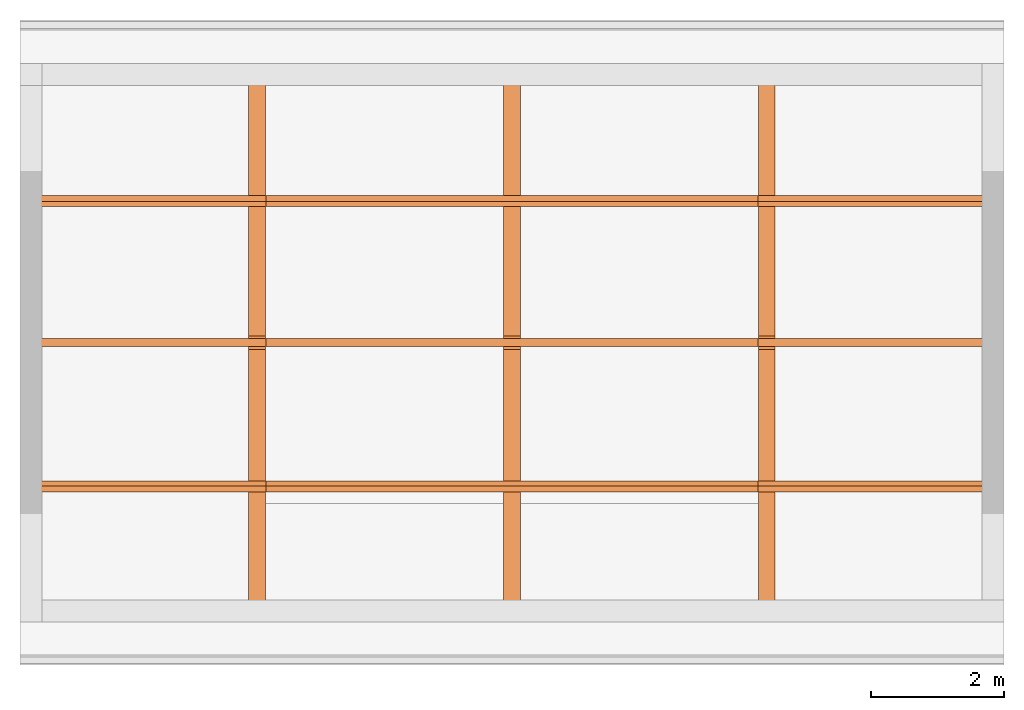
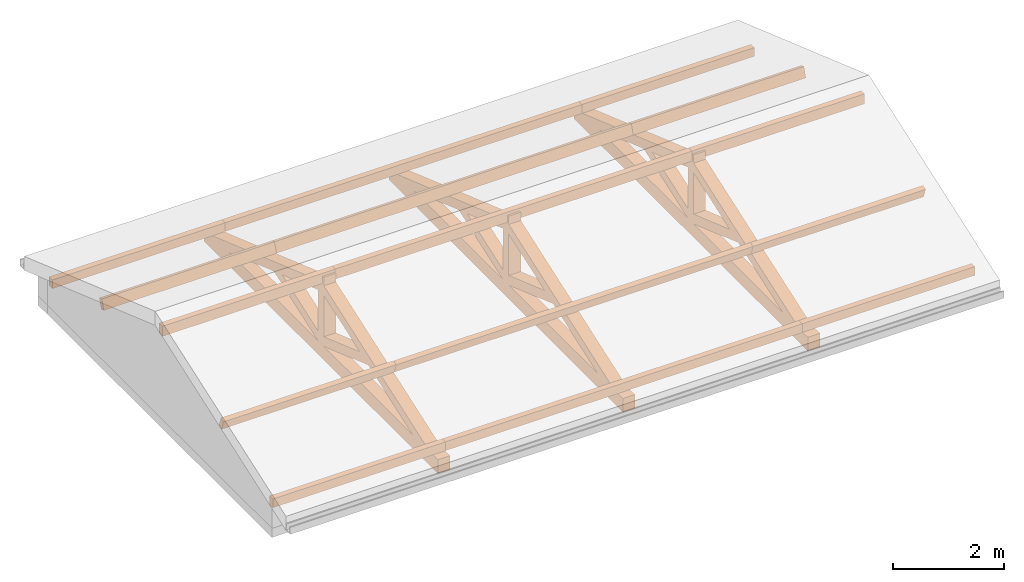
# One storey, part 3 of 3: 3 proxies.
"""IFC2X3 building model written with IfcOpenShell, lengths in metres."""

from ifc_helpers import new_model, entity, si_unit, converted_unit, derived_unit, direction, frame, frame_2d, origin, origin_2d_with_axis, place, context, subcontext, project, spatial, polyline, rectangle, outline, extrude, source, transform, mapped, material, type_object, type_shapes, element, save


model = new_model("IFC2X3")

# Units and contexts
model_context = context("Model", 3, precision=1e-05, world=origin(), true_north=direction((6.12303176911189e-17, 1.0)))
body_context = subcontext(model_context, "Body", "Model", "MODEL_VIEW")
ifc_project = project(units=[si_unit("LENGTHUNIT", "METRE"), si_unit("AREAUNIT", "SQUARE_METRE"), si_unit("VOLUMEUNIT", "CUBIC_METRE"), converted_unit("PLANEANGLEUNIT", "DEGREE", entity("IfcRatioMeasure", 0.0174532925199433), si_unit("PLANEANGLEUNIT", "RADIAN"), dimensions=[0, 0, 0, 0, 0, 0, 0]), si_unit("MASSUNIT", "GRAM", prefix="KILO"), derived_unit("MASSDENSITYUNIT", [(si_unit("MASSUNIT", "GRAM", prefix="KILO"), 1), (si_unit("LENGTHUNIT", "METRE"), -3)]), si_unit("TIMEUNIT", "SECOND"), si_unit("FREQUENCYUNIT", "HERTZ"), si_unit("THERMODYNAMICTEMPERATUREUNIT", "DEGREE_CELSIUS"), derived_unit("THERMALTRANSMITTANCEUNIT", [(si_unit("MASSUNIT", "GRAM", prefix="KILO"), 1), (si_unit("THERMODYNAMICTEMPERATUREUNIT", "KELVIN"), -1), (si_unit("TIMEUNIT", "SECOND"), -3)]), derived_unit("VOLUMETRICFLOWRATEUNIT", [(si_unit("LENGTHUNIT", "METRE"), 3), (si_unit("TIMEUNIT", "SECOND"), -1)]), si_unit("ELECTRICCURRENTUNIT", "AMPERE"), si_unit("ELECTRICVOLTAGEUNIT", "VOLT"), si_unit("POWERUNIT", "WATT"), si_unit("FORCEUNIT", "NEWTON", prefix="KILO"), si_unit("ILLUMINANCEUNIT", "LUX"), si_unit("LUMINOUSFLUXUNIT", "LUMEN"), si_unit("LUMINOUSINTENSITYUNIT", "CANDELA"), derived_unit("USERDEFINED", [(si_unit("MASSUNIT", "GRAM", prefix="KILO"), -1), (si_unit("LENGTHUNIT", "METRE"), -2), (si_unit("TIMEUNIT", "SECOND"), 3), (si_unit("LUMINOUSFLUXUNIT", "LUMEN"), 1)]), derived_unit("LINEARVELOCITYUNIT", [(si_unit("LENGTHUNIT", "METRE"), 1), (si_unit("TIMEUNIT", "SECOND"), -1)]), si_unit("PRESSUREUNIT", "PASCAL"), derived_unit("USERDEFINED", [(si_unit("LENGTHUNIT", "METRE"), -2), (si_unit("MASSUNIT", "GRAM", prefix="KILO"), 1), (si_unit("TIMEUNIT", "SECOND"), -2)])], contexts=[model_context])

# Site, building, storey
site_placement = place(None, origin())
site = spatial("IfcSite", under=ifc_project, at=site_placement, Name="Surface", CompositionType="ELEMENT")
building_placement = place(site_placement, origin())
building = spatial("IfcBuilding", under=site, at=building_placement, CompositionType="ELEMENT")
storey_placement = place(building_placement, frame((0.0, 0.0, 5.8)))
storey = spatial("IfcBuildingStorey", under=building, at=storey_placement, Name="1er Chainage", CompositionType="ELEMENT", Elevation=5.8)

# Proxies
ifc_material = material(Name="bois de charpente")
building_element_proxy_type_1 = type_object("IfcBuildingElementProxyType", Name="FERME", PredefinedType="NOTDEFINED", material=ifc_material)
shared_shape_1 = source(origin(), body_context, "Body", "SweptSolid", [
    extrude(rectangle(XDim=0.22, YDim=0.1, at=frame_2d((6.24500451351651e-17, -2.42861286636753e-17), x_axis=(1.0, 0.0))), frame((-0.717544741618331, -0.0955800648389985, 0.735181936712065), z_axis=(0.0, 1.0, 0.0), x_axis=(0.330349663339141, 0.0, 0.94385862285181)), (0.0, 0.0, 1.0), 3.58),
    extrude(rectangle(XDim=0.22, YDim=0.100000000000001, at=frame_2d((1.73472347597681e-16, -5.13478148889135e-16), x_axis=(1.0, 0.0))), frame((-5.01673947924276, -0.0955800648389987, 0.7231824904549), z_axis=(0.0, 1.0, 0.0), x_axis=(-0.330349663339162, 0.0, 0.943858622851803)), (0.0, 0.0, 1.0), 3.58),
    extrude(rectangle(XDim=3.58, YDim=0.12, at=frame_2d((-2.22044604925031e-16, 5.41233724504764e-16), x_axis=(1.0, 0.0))), frame((-6.80999999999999, 1.694419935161, 0.0), z_axis=(0.0, 0.0, 1.0), x_axis=(0.0, 1.0, 0.0)), (0.0, 0.0, 1.0), 0.191085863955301),
    extrude(rectangle(XDim=3.58, YDim=0.119999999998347, at=frame_2d((-2.22044604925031e-16, -6.93889390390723e-17), x_axis=(1.0, 0.0))), frame((1.11000000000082, 1.694419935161, 0.0), z_axis=(0.0, 0.0, 1.0), x_axis=(0.0, 1.0, 0.0)), (0.0, 0.0, 1.0), 0.191085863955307),
    extrude(outline(polyline([(-0.759145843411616, -0.477664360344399), (-0.43843090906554, -0.477664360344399), (0.63378828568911, 0.3776643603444), (0.563788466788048, 0.577664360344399), (-0.759145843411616, -0.477664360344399)])), frame((-3.67296783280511, -0.0848474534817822, 0.358986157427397), z_axis=(0.0, 1.0, 0.0), x_axis=(0.943858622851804, 0.0, 0.33034966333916)), (0.0, 0.0, 1.0), 0.25),
    extrude(outline(polyline([(-0.891328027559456, -0.1), (0.800970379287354, -0.0999999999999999), (0.730970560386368, 0.1), (-0.640612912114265, 0.0999999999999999), (-0.891328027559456, -0.1)])), frame((-2.02703216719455, -0.0848474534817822, 0.358986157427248), z_axis=(0.0, 1.0, 0.0), x_axis=(-0.943858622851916, 0.0, -0.330349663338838)), (0.0, 0.0, 1.0), 0.25),
    extrude(outline(polyline([(-0.100000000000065, -1.09634144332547), (0.0999999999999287, -1.09634144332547), (0.10000000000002, 0.417800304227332), (0.060000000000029, 0.417800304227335), (0.0600000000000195, 0.260740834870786), (-0.0599999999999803, 0.260740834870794), (-0.0599999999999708, 0.417800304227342), (-0.0999999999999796, 0.417800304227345), (-0.100000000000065, -1.09634144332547)])), frame((-2.85000000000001, -0.0848474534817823, 1.09634144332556), z_axis=(0.0, 1.0, 0.0), x_axis=(-1.0, 0.0, 0.0)), (0.0, 0.0, 1.0), 0.25),
    extrude(outline(polyline([(-0.717972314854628, -1.74864522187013), (-0.5060761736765, -1.74864522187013), (0.612024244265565, 1.44593566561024), (0.612024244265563, 2.05135477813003), (-0.717972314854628, -1.74864522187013)])), frame((-4.6986452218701, -0.0848474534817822, 0.612024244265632), z_axis=(0.0, 1.0, 0.0), x_axis=(0.0, 0.0, -1.0)), (0.0, 0.0, 1.0), 0.25),
    extrude(outline(polyline([(-1.88765578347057, -0.0999999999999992), (2.1383708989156, -0.100000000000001), (1.56694084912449, 0.0999999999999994), (-1.81765596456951, 0.100000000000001), (-1.88765578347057, -0.0999999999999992)])), frame((-1.00135477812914, -0.0848474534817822, 0.612024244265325), z_axis=(0.0, 1.0, 0.0), x_axis=(0.94385862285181, 0.0, -0.330349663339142)), (0.0, 0.0, 1.0), 0.25),
    extrude(rectangle(XDim=8.39999999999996, YDim=0.25, at=origin_2d_with_axis()), frame((-2.85000000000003, 0.0401525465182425, -0.299999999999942), z_axis=(0.0, 0.0, 1.0), x_axis=(-1.0, 0.0, 0.0)), (0.0, 0.0, 1.0), 0.299999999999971),
    extrude(rectangle(XDim=3.58, YDim=0.12, at=frame_2d((-2.22044604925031e-16, 0.0), x_axis=(1.0, 0.0))), frame((-2.85000000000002, 1.694419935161, 1.35708227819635), z_axis=(0.0, 0.0, 1.0), x_axis=(0.0, 1.0, 0.0)), (0.0, 0.0, 1.0), 0.22),
])
type_shapes(building_element_proxy_type_1, [shared_shape_1])
proxy_1_placement = place(storey_placement, frame((-1.39806895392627, 6.52701067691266, 0.5), z_axis=(0.0, 0.0, 1.0), x_axis=(0.0, 1.0, 0.0)))
element("IfcBuildingElementProxy", 1, at=proxy_1_placement, inside=storey, type_object=building_element_proxy_type_1, material=ifc_material, Name="FERME:FERME", ObjectType="FERME", context=body_context, shape_type="MappedRepresentation", body=[
    mapped(shared_shape_1, transform((0.0, 0.0, 0.0), scale=1.0)),
])
building_element_proxy_type_2 = type_object("IfcBuildingElementProxyType", Name="FERME", PredefinedType="NOTDEFINED", material=ifc_material)
shared_shape_2 = source(origin(), body_context, "Body", "SweptSolid", [
    extrude(rectangle(XDim=0.22, YDim=0.1, at=frame_2d((8.67361737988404e-17, 4.16333634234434e-17), x_axis=(0.0, 1.0))), frame((-0.717544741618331, -3.484419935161, 0.735181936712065), z_axis=(0.0, 1.0, 0.0), x_axis=(-0.94385862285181, 0.0, 0.330349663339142)), (0.0, 0.0, 1.0), 3.58),
    extrude(rectangle(XDim=0.22, YDim=0.100000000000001, at=frame_2d((-5.06539254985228e-16, -1.87350135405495e-16), x_axis=(0.0, 1.0))), frame((-5.01673947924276, -3.484419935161, 0.7231824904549), z_axis=(0.0, 1.0, 0.0), x_axis=(-0.943858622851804, 0.0, -0.330349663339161)), (0.0, 0.0, 1.0), 3.58),
    extrude(rectangle(XDim=0.12, YDim=3.58, at=frame_2d((-5.41233724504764e-16, 0.0), x_axis=(1.0, 0.0))), frame((-6.80999999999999, -1.694419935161, 0.0), z_axis=(0.0, 0.0, 1.0), x_axis=(-1.0, 0.0, 0.0)), (0.0, 0.0, 1.0), 0.191085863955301),
    extrude(rectangle(XDim=0.119999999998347, YDim=3.58, at=frame_2d((-6.93889390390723e-17, 0.0), x_axis=(1.0, 0.0))), frame((1.11000000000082, -1.694419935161, 0.0), z_axis=(0.0, 0.0, 1.0), x_axis=(-1.0, 0.0, 0.0)), (0.0, 0.0, 1.0), 0.191085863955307),
    extrude(outline(polyline([(-0.759145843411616, -0.477664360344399), (-0.43843090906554, -0.477664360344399), (0.63378828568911, 0.3776643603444), (0.563788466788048, 0.577664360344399), (-0.759145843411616, -0.477664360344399)])), frame((-3.67296783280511, -0.165152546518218, 0.358986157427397), z_axis=(0.0, 1.0, 0.0), x_axis=(0.943858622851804, 0.0, 0.33034966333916)), (0.0, 0.0, 1.0), 0.25),
    extrude(outline(polyline([(-0.891328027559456, -0.1), (0.800970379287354, -0.0999999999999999), (0.730970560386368, 0.1), (-0.640612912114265, 0.0999999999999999), (-0.891328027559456, -0.1)])), frame((-2.02703216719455, -0.165152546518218, 0.358986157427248), z_axis=(0.0, 1.0, 0.0), x_axis=(-0.943858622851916, 0.0, -0.330349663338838)), (0.0, 0.0, 1.0), 0.25),
    extrude(outline(polyline([(-0.100000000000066, -1.09634144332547), (0.0999999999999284, -1.09634144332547), (0.100000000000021, 0.417800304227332), (0.0600000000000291, 0.417800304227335), (0.0600000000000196, 0.260740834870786), (-0.0599999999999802, 0.260740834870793), (-0.0599999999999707, 0.417800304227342), (-0.0999999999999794, 0.417800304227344), (-0.100000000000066, -1.09634144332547)])), frame((-2.85000000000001, -0.165152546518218, 1.09634144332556), z_axis=(0.0, 1.0, 0.0), x_axis=(-1.0, 0.0, 0.0)), (0.0, 0.0, 1.0), 0.25),
    extrude(outline(polyline([(-0.717972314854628, -1.74864522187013), (-0.5060761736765, -1.74864522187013), (0.612024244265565, 1.44593566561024), (0.612024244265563, 2.05135477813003), (-0.717972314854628, -1.74864522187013)])), frame((-4.6986452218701, -0.165152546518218, 0.612024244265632), z_axis=(0.0, 1.0, 0.0), x_axis=(0.0, 0.0, -1.0)), (0.0, 0.0, 1.0), 0.25),
    extrude(outline(polyline([(-1.88765578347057, -0.0999999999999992), (2.1383708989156, -0.100000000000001), (1.56694084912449, 0.0999999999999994), (-1.81765596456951, 0.100000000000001), (-1.88765578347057, -0.0999999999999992)])), frame((-1.00135477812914, -0.165152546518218, 0.612024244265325), z_axis=(0.0, 1.0, 0.0), x_axis=(0.94385862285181, 0.0, -0.330349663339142)), (0.0, 0.0, 1.0), 0.25),
    extrude(rectangle(XDim=0.25, YDim=8.39999999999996, at=origin_2d_with_axis()), frame((-2.85000000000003, -0.0401525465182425, -0.299999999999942), z_axis=(0.0, 0.0, 1.0), x_axis=(0.0, 1.0, 0.0)), (0.0, 0.0, 1.0), 0.299999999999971),
    extrude(rectangle(XDim=0.12, YDim=3.58, at=origin_2d_with_axis()), frame((-2.85000000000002, -1.694419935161, 1.35708227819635), z_axis=(0.0, 0.0, 1.0), x_axis=(-1.0, 0.0, 0.0)), (0.0, 0.0, 1.0), 0.22),
])
type_shapes(building_element_proxy_type_2, [shared_shape_2])
proxy_2_placement = place(storey_placement, frame((6.19169133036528, 6.52701067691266, 0.5), z_axis=(0.0, 0.0, 1.0), x_axis=(0.0, 1.0, 0.0)))
element("IfcBuildingElementProxy", 2, at=proxy_2_placement, inside=storey, type_object=building_element_proxy_type_2, material=ifc_material, Name="FERME:FERME", ObjectType="FERME", context=body_context, shape_type="MappedRepresentation", body=[
    mapped(shared_shape_2, transform((0.0, 0.0, 0.0), scale=1.0)),
])
building_element_proxy_type_3 = type_object("IfcBuildingElementProxyType", Name="FERME", PredefinedType="NOTDEFINED", material=ifc_material)
shared_shape_3 = source(origin(), body_context, "Body", "SweptSolid", [
    extrude(rectangle(XDim=0.22, YDim=0.1, at=frame_2d((8.67361737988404e-17, 4.16333634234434e-17), x_axis=(0.0, 1.0))), frame((-0.717544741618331, -3.74085246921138, 0.735181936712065), z_axis=(0.0, 1.0, 0.0), x_axis=(-0.94385862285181, 0.0, 0.330349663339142)), (0.0, 0.0, 1.0), 7.4),
    extrude(rectangle(XDim=0.22, YDim=0.100000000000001, at=frame_2d((-5.06539254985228e-16, -1.87350135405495e-16), x_axis=(0.0, 1.0))), frame((-5.01673947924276, -3.74085246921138, 0.7231824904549), z_axis=(0.0, 1.0, 0.0), x_axis=(-0.943858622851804, 0.0, -0.330349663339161)), (0.0, 0.0, 1.0), 7.4),
    extrude(rectangle(XDim=0.12, YDim=7.4, at=frame_2d((-5.41233724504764e-16, 0.0), x_axis=(1.0, 0.0))), frame((-6.80999999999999, -0.0408524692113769, 0.0), z_axis=(0.0, 0.0, 1.0), x_axis=(-1.0, 0.0, 0.0)), (0.0, 0.0, 1.0), 0.191085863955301),
    extrude(rectangle(XDim=0.119999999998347, YDim=7.4, at=frame_2d((-6.93889390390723e-17, 0.0), x_axis=(1.0, 0.0))), frame((1.11000000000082, -0.0408524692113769, 0.0), z_axis=(0.0, 0.0, 1.0), x_axis=(-1.0, 0.0, 0.0)), (0.0, 0.0, 1.0), 0.191085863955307),
    extrude(outline(polyline([(-0.759145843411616, -0.477664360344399), (-0.43843090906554, -0.477664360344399), (0.63378828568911, 0.3776643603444), (0.563788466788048, 0.577664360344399), (-0.759145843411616, -0.477664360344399)])), frame((-3.67296783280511, -0.165152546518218, 0.358986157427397), z_axis=(0.0, 1.0, 0.0), x_axis=(0.943858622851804, 0.0, 0.33034966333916)), (0.0, 0.0, 1.0), 0.25),
    extrude(outline(polyline([(-0.891328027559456, -0.1), (0.800970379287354, -0.0999999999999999), (0.730970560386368, 0.1), (-0.640612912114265, 0.0999999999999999), (-0.891328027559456, -0.1)])), frame((-2.02703216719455, -0.165152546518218, 0.358986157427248), z_axis=(0.0, 1.0, 0.0), x_axis=(-0.943858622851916, 0.0, -0.330349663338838)), (0.0, 0.0, 1.0), 0.25),
    extrude(outline(polyline([(-0.100000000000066, -1.09634144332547), (0.0999999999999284, -1.09634144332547), (0.100000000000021, 0.417800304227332), (0.0600000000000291, 0.417800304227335), (0.0600000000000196, 0.260740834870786), (-0.0599999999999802, 0.260740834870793), (-0.0599999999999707, 0.417800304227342), (-0.0999999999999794, 0.417800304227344), (-0.100000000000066, -1.09634144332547)])), frame((-2.85000000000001, -0.165152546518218, 1.09634144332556), z_axis=(0.0, 1.0, 0.0), x_axis=(-1.0, 0.0, 0.0)), (0.0, 0.0, 1.0), 0.25),
    extrude(outline(polyline([(-0.717972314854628, -1.74864522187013), (-0.5060761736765, -1.74864522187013), (0.612024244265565, 1.44593566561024), (0.612024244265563, 2.05135477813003), (-0.717972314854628, -1.74864522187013)])), frame((-4.6986452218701, -0.165152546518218, 0.612024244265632), z_axis=(0.0, 1.0, 0.0), x_axis=(0.0, 0.0, -1.0)), (0.0, 0.0, 1.0), 0.25),
    extrude(outline(polyline([(-1.88765578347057, -0.0999999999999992), (2.1383708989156, -0.100000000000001), (1.56694084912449, 0.0999999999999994), (-1.81765596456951, 0.100000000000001), (-1.88765578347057, -0.0999999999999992)])), frame((-1.00135477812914, -0.165152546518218, 0.612024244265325), z_axis=(0.0, 1.0, 0.0), x_axis=(0.94385862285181, 0.0, -0.330349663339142)), (0.0, 0.0, 1.0), 0.25),
    extrude(rectangle(XDim=0.25, YDim=8.39999999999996, at=origin_2d_with_axis()), frame((-2.85000000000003, -0.0401525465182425, -0.299999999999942), z_axis=(0.0, 0.0, 1.0), x_axis=(0.0, 1.0, 0.0)), (0.0, 0.0, 1.0), 0.299999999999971),
    extrude(rectangle(XDim=0.12, YDim=7.4, at=origin_2d_with_axis()), frame((-2.85000000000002, -0.0408524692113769, 1.35708227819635), z_axis=(0.0, 0.0, 1.0), x_axis=(-1.0, 0.0, 0.0)), (0.0, 0.0, 1.0), 0.22),
])
type_shapes(building_element_proxy_type_3, [shared_shape_3])
proxy_3_placement = place(storey_placement, frame((2.35665864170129, 6.52701067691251, 0.5), z_axis=(0.0, 0.0, 1.0), x_axis=(0.0, 1.0, 0.0)))
element("IfcBuildingElementProxy", 3, at=proxy_3_placement, inside=storey, type_object=building_element_proxy_type_3, material=ifc_material, Name="FERME:FERME", ObjectType="FERME", context=body_context, shape_type="MappedRepresentation", body=[
    mapped(shared_shape_3, transform((0.0, 0.0, 0.0), scale=1.0)),
])

save(model, "model.ifc")
